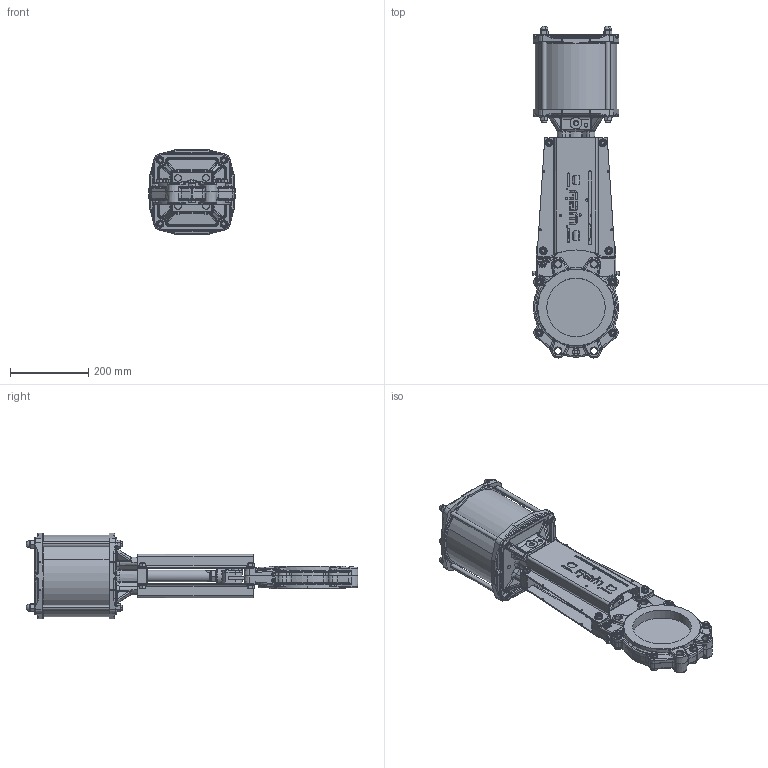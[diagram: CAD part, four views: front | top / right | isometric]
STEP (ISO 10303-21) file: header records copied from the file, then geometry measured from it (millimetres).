
FILE_DESCRIPTION (( 'STEP AP214' ), '1' );
FILE_NAME ('VSC DN 0150 Zyl.-Reihe 2.STEP', '2015-09-23T11:07:12', ( 'admin' ), ( 'Hewlett-Packard Company' ), 'SwSTEP 2.0', 'SolidWorks 2013', '' );
FILE_SCHEMA (( 'AUTOMOTIVE_DESIGN' ));
Length unit declared in the file: millimetre
Products named in the file (1): VSC DN 0150 Zyl.-Reihe 2
Bounding box: 222 x 850.97 x 220 mm (x, y, z)
Volume: 5403797.2 mm3; surface area: 1153158.4 mm2
Topology: 67 solids, 71 shells, 3731 faces, 8918 edges, 5274 vertices
Faces by surface type: plane 1122, cylinder 926, cone 708, bspline 707, torus 195, sphere 73
Entity records: 174086 total; most frequent: CARTESIAN_POINT 51757, ORIENTED_EDGE 17508, DIRECTION 15874, EDGE_CURVE 8754, AXIS2_PLACEMENT_3D 6325, VERTEX_POINT 5266, EDGE_LOOP 4056, UNCERTAINTY_MEASURE_WITH_UNIT 3800
